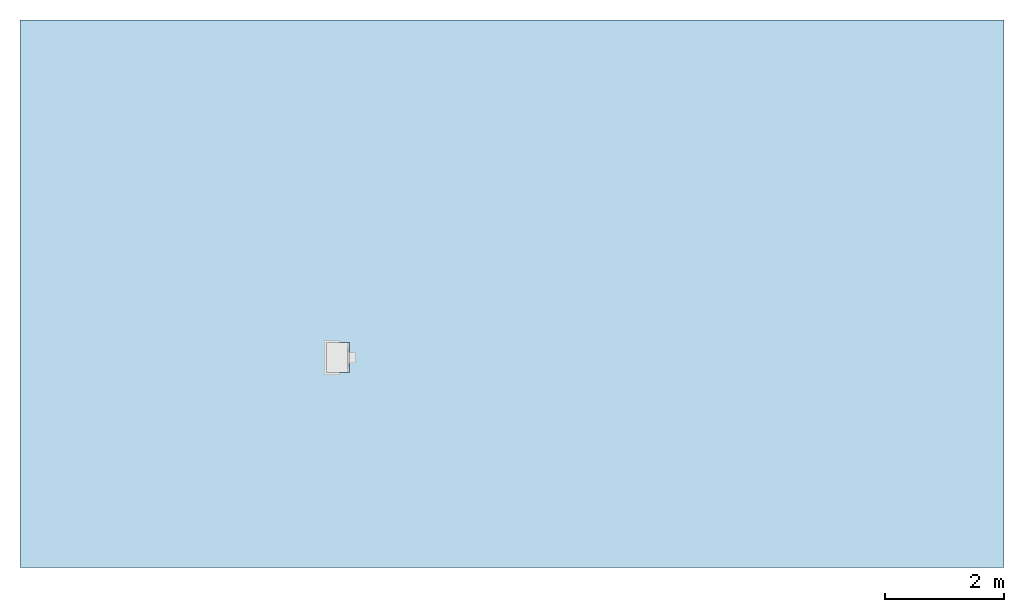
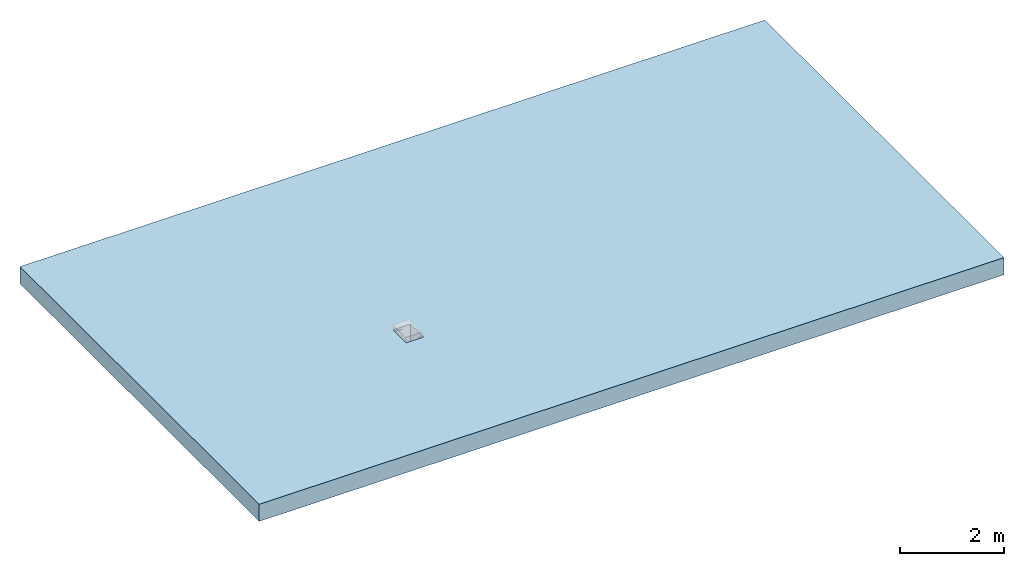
# One storey, incomplete: 1 slab, 3 openings.
"""IFC2X3 building model written with IfcOpenShell, lengths in millimetres."""

from ifc_helpers import new_model, entity, si_unit, converted_unit, direction, frame, frame_2d, origin, origin_2d_with_axis, place, context, subcontext, project, spatial, polyline, circle_curve, parameter, trimmed, segment, composite_curve, rectangle, outline, extrude, faceted_brep, material, layer, layer_set, layer_usage, element, save


model = new_model("IFC2X3")

# Units and contexts
model_context = context("Model", 3, precision=1e-06, world=origin(), true_north=direction((2.0, 6.12303176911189e-17, 1.0)))
context_of_model = context(None, 3, precision=1e-06, world=origin(), true_north=direction((2.0, 6.12303176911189e-17, 1.0)))
body_context = subcontext(model_context, "Body", "Model", "MODEL_VIEW")
ifc_project = project(units=[si_unit("LENGTHUNIT", "METRE", prefix="MILLI"), si_unit("AREAUNIT", "SQUARE_METRE", prefix="MILLI"), si_unit("VOLUMEUNIT", "CUBIC_METRE", prefix="MILLI"), converted_unit("PLANEANGLEUNIT", "DEGREE", entity("IfcRatioMeasure", 0.0174532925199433), si_unit("PLANEANGLEUNIT", "RADIAN"), dimensions=[0, 0, 0, 0, 0, 0, 0]), si_unit("TIMEUNIT", "SECOND")], contexts=[model_context, context_of_model])

# Site, building, storey
site_placement = place(None, origin())
site = spatial("IfcSite", under=ifc_project, at=site_placement, Name="Default", CompositionType="ELEMENT")
building_placement = place(site_placement, origin())
building = spatial("IfcBuilding", under=site, at=building_placement, CompositionType="ELEMENT")
storey_placement = place(building_placement, origin())
storey = spatial("IfcBuildingStorey", under=building, at=storey_placement, Name="Level 1", CompositionType="ELEMENT", Elevation=0.0)

# Slab, openings
ifc_material = material(Name="Plant")
ifc_layer = layer(ifc_material, 400.0)
ifc_layer_set = layer_set([ifc_layer], Name="Floor:Generic Floor - 400mm")
ifc_layer_usage = layer_usage(ifc_layer_set, "AXIS3", "POSITIVE", 0.0)
slab_placement = place(storey_placement, frame((-17967.0691536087, -3738.31688706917, -400.0)))
slab = element("IfcSlab", 1, at=slab_placement, inside=storey, material=ifc_layer_usage, Name="Floor:Generic Floor - 400mm", ObjectType="Floor:Generic Floor - 400mm", PredefinedType="FLOOR", context=body_context, shape_type="SweptSolid", body=[
    extrude(rectangle(XDim=9180.0, YDim=16500.0, at=frame_2d((0.0, 0.0), x_axis=(0.0, -1.0))), frame((8250.0, 4590.0, 400.0), z_axis=(0.0, 0.0, -1.0), x_axis=(-1.0, 0.0, 0.0)), (0.0, 0.0, 1.0), 400.0),
])
opening_1_placement = place(slab_placement, frame((5094.97891516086, 3227.06393421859, -500.4346459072)))
element("IfcOpeningElement", 2, at=opening_1_placement, cuts=slab, ObjectType="Opening", context=body_context, shape_type="Brep", body=[
    faceted_brep([(43.5952722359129, 541.595272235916, 505.434645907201), (77.5231057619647, 41.5952722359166, 505.434645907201), (77.5231057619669, 541.595272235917, 505.434645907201), (43.5952722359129, 41.595272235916, 505.434645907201), (398.595272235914, 541.595272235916, 505.434645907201), (433.595272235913, 41.595272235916, 505.434645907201), (433.595272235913, 541.595272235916, 505.434645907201), (398.595272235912, 41.5952722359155, 505.434645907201), (43.5952722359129, 541.595272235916, 855.419056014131), (43.5952722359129, 541.595272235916, 900.4346459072), (43.5952722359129, 41.595272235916, 900.4346459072), (43.5952722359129, 41.595272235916, 855.419056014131), (43.5952722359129, 541.595272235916, 845.4346459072), (43.5952722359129, 41.595272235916, 845.4346459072), (377.167438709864, 381.595272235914, 0.0), (377.167438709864, 201.595272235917, 0.434645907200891), (377.167438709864, 201.595272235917, 0.0), (377.167438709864, 381.595272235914, 0.434645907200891), (533.410259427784, 201.595272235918, 463.369291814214), (398.595272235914, 201.595272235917, 463.369291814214), (398.595272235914, 381.595272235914, 463.369291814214), (533.410259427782, 381.595272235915, 463.369291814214), (398.595272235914, 381.595272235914, 0.434645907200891), (533.410259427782, 381.595272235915, 0.0), (77.5231057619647, 41.5952722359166, 0.434645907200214), (77.523105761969, 541.595272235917, 0.434645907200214), (398.595272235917, 541.595272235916, 0.434645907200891), (398.595272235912, 41.5952722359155, 0.434645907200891), (398.595272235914, 201.595272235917, 0.434645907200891), (259.595272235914, 541.595272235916, 845.4346459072), (259.595272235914, 541.595272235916, 855.419056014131), (433.595272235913, 541.595272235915, 900.4346459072), (259.595272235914, 41.595272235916, 855.419056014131), (259.595272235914, 41.595272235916, 845.4346459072), (433.595272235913, 41.5952722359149, 900.4346459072), (533.410259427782, 201.595272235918, 0.0), (2.27675571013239, 566.771653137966, 845.4346459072), (1.59527223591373, 561.595272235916, 845.4346459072), (21.5952722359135, 581.595272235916, 845.4346459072), (7.45313661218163, 575.737407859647, 845.4346459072), (4.27476416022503, 571.595272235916, 845.4346459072), (1.59527223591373, 21.5952722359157, 845.4346459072), (2.27675571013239, 16.4188913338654, 845.4346459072), (4.27476416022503, 11.5952722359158, 845.4346459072), (21.5952722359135, 1.5952722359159, 845.4346459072), (11.5952722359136, 4.27476416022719, 845.4346459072), (7.4531366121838, 7.45313661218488, 845.4346459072), (11.5952722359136, 578.915780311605, 845.4346459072), (259.595272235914, 581.595272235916, 845.4346459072), (16.4188913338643, 2.27675571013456, 845.4346459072), (259.595272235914, 1.59527223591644, 845.4346459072), (16.4188913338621, 580.913788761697, 845.4346459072), (259.595272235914, 581.595272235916, 855.419056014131), (21.5952722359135, 581.595272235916, 855.419056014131), (1.59527223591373, 561.595272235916, 855.419056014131), (1.59527223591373, 21.5952722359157, 855.419056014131), (259.595272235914, 1.59527223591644, 855.419056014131), (16.4188913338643, 2.27675571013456, 855.419056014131), (11.5952722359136, 4.27476416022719, 855.419056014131), (21.5952722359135, 1.5952722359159, 855.419056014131), (11.5952722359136, 578.915780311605, 855.419056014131), (16.4188913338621, 580.913788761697, 855.419056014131), (4.27476416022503, 571.595272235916, 855.419056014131), (7.45313661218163, 575.737407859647, 855.419056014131), (2.27675571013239, 566.771653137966, 855.419056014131), (7.4531366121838, 7.45313661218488, 855.419056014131), (4.27476416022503, 11.5952722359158, 855.419056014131), (2.27675571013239, 16.4188913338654, 855.419056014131)], [[[0, 1, 2]], [[1, 0, 3]], [[4, 5, 6]], [[5, 4, 7]], [[8, 9, 10]], [[10, 11, 8]], [[3, 12, 13]], [[12, 3, 0]], [[14, 15, 16]], [[15, 14, 17]], [[18, 19, 20]], [[20, 21, 18]], [[17, 14, 22]], [[23, 21, 22]], [[20, 22, 21]], [[14, 23, 22]], [[2, 1, 24]], [[24, 25, 2]], [[26, 20, 4]], [[19, 4, 20]], [[20, 26, 22]], [[27, 7, 19]], [[4, 19, 7]], [[19, 28, 27]], [[2, 29, 12]], [[12, 0, 2]], [[4, 2, 25]], [[30, 9, 8]], [[31, 30, 29]], [[9, 30, 31]], [[4, 31, 29]], [[31, 4, 6]], [[4, 25, 26]], [[29, 2, 4]], [[24, 17, 25]], [[26, 25, 17]], [[27, 15, 24]], [[17, 24, 15]], [[17, 22, 26]], [[15, 27, 28]], [[7, 24, 1]], [[13, 1, 3]], [[32, 11, 10]], [[1, 13, 33]], [[1, 33, 7]], [[34, 5, 7]], [[32, 34, 33]], [[7, 33, 34]], [[10, 34, 32]], [[27, 24, 7]], [[18, 21, 23]], [[23, 35, 18]], [[35, 14, 16]], [[14, 35, 23]], [[16, 15, 28]], [[18, 35, 28]], [[16, 28, 35]], [[19, 18, 28]], [[34, 10, 9]], [[9, 31, 34]], [[6, 34, 31]], [[34, 6, 5]], [[36, 37, 38]], [[39, 40, 38]], [[38, 40, 36]], [[37, 41, 12]], [[42, 43, 44]], [[45, 44, 46]], [[46, 44, 43]], [[41, 42, 44]], [[38, 47, 39]], [[37, 12, 38]], [[29, 48, 12]], [[38, 12, 48]], [[41, 13, 12]], [[44, 45, 49]], [[50, 33, 13]], [[44, 50, 13]], [[41, 44, 13]], [[47, 38, 51]], [[8, 52, 30]], [[53, 8, 54]], [[52, 8, 53]], [[55, 8, 11]], [[11, 32, 56]], [[57, 58, 59]], [[59, 55, 11]], [[56, 59, 11]], [[53, 60, 61]], [[53, 62, 63]], [[64, 53, 54]], [[64, 62, 53]], [[54, 8, 55]], [[65, 59, 58]], [[59, 65, 66]], [[66, 67, 59]], [[59, 67, 55]], [[60, 53, 63]], [[64, 54, 36]], [[62, 64, 40]], [[36, 54, 37]], [[64, 36, 40]], [[62, 40, 39]], [[39, 63, 62]], [[60, 63, 47]], [[61, 60, 51]], [[51, 60, 47]], [[61, 51, 38]], [[61, 38, 53]], [[39, 47, 63]], [[55, 41, 37]], [[37, 54, 55]], [[57, 59, 49]], [[58, 57, 45]], [[49, 59, 44]], [[57, 49, 45]], [[58, 45, 46]], [[46, 65, 58]], [[66, 65, 43]], [[67, 66, 42]], [[42, 66, 43]], [[67, 42, 41]], [[67, 41, 55]], [[46, 43, 65]], [[56, 50, 44]], [[44, 59, 56]], [[32, 33, 50]], [[50, 56, 32]], [[30, 48, 29]], [[48, 30, 52]], [[52, 38, 48]], [[38, 52, 53]]]),
])
opening_2_placement = place(slab_placement, frame((5094.97891516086, 3227.06393421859, -500.4346459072)))
element("IfcOpeningElement", 3, at=opening_2_placement, cuts=slab, ObjectType="Opening", context=body_context, shape_type="SweptSolid", body=[
    extrude(outline(composite_curve([segment(trimmed(circle_curve(frame_2d((0.11246047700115, 0.0), x_axis=(1.0, 0.0)), 250.0), [parameter(129.825371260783)], [parameter(230.174628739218)], True, "PARAMETER"), True, "CONTINUOUS"), segment(polyline([(-160.0, -192.0), (-160.0, -250.0)]), True, "CONTINUOUS"), segment(polyline([(-160.0, -250.0), (0.0, -250.0)]), True, "CONTINUOUS"), segment(polyline([(0.0, -250.0), (160.0, -250.0)]), True, "CONTINUOUS"), segment(polyline([(160.0, -250.0), (160.0, -192.0)]), True, "CONTINUOUS"), segment(trimmed(circle_curve(frame_2d((-0.112460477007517, 0.0), x_axis=(1.0, 0.0)), 250.0), [parameter(309.825371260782)], [parameter(50.1746287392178)], True, "PARAMETER"), True, "CONTINUOUS"), segment(polyline([(160.0, 192.0), (160.0, 250.0)]), True, "CONTINUOUS"), segment(polyline([(160.0, 250.0), (0.0, 250.0)]), True, "CONTINUOUS"), segment(polyline([(0.0, 250.0), (-160.0, 250.0)]), True, "CONTINUOUS"), segment(polyline([(-160.0, 250.0), (-160.0, 192.0)]), True, "CONTINUOUS")], self_intersect=False)), frame((5333.57418739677, 3518.6592064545, -1985.0), z_axis=(0.0, 0.0, 1.0), x_axis=(-1.0, 0.0, 0.0)), (0.0, 0.0, 1.0), 4.99999999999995),
])
opening_3_placement = place(slab_placement, frame((5094.97891516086, 3227.06393421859, -500.4346459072)))
element("IfcOpeningElement", 4, at=opening_3_placement, cuts=slab, ObjectType="Opening", context=body_context, shape_type="SweptSolid", body=[
    extrude(rectangle(XDim=500.0, YDim=320.000000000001, at=origin_2d_with_axis()), frame((5333.57418739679, 3519.95898825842, -5600.0), z_axis=(0.0, 0.0, 1.0), x_axis=(0.0, -1.0, 0.0)), (0.0, 0.0, 1.0), 364.999999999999),
])

save(model, "model.ifc")
